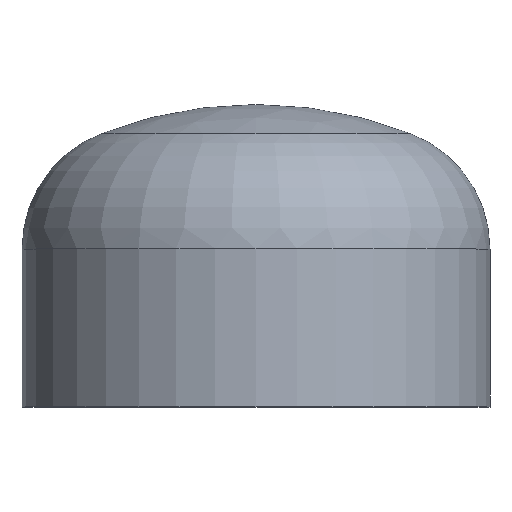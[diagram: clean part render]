
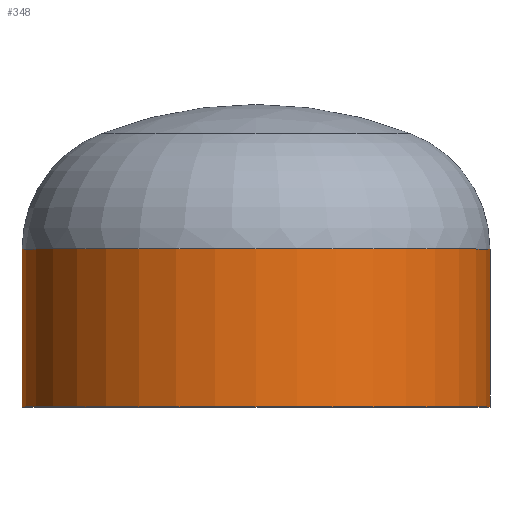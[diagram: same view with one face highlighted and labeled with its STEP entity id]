
A CAD part, top view. The second image highlights one B-rep face of the part: STEP entity #348.
In plain terms, the highlighted cylindrical face has radius 177.8 mm (diameter 355.6 mm), a partial arc.
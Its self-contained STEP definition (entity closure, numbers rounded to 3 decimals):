
#1 = AXIS2_PLACEMENT_3D ( 'NONE', #198, #151, #248 ) ;
#9 = ORIENTED_EDGE ( 'NONE', *, *, #100, .F. ) ;
#11 = ORIENTED_EDGE ( 'NONE', *, *, #95, .T. ) ;
#17 = AXIS2_PLACEMENT_3D ( 'NONE', #229, #153, #172 ) ;
#79 = ORIENTED_EDGE ( 'NONE', *, *, #326, .F. ) ;
#86 = VERTEX_POINT ( 'NONE', #255 ) ;
#91 = AXIS2_PLACEMENT_3D ( 'NONE', #238, #234, #343 ) ;
#95 = EDGE_CURVE ( 'NONE', #105, #120, #259, .T. ) ;
#100 = EDGE_CURVE ( 'NONE', #105, #86, #133, .T. ) ;
#105 = VERTEX_POINT ( 'NONE', #314 ) ;
#112 = VERTEX_POINT ( 'NONE', #209 ) ;
#120 = VERTEX_POINT ( 'NONE', #346 ) ;
#133 = LINE ( 'NONE', #334, #323 ) ;
#151 = DIRECTION ( 'NONE',  ( 0., -1., 0. ) ) ;
#153 = DIRECTION ( 'NONE',  ( 0., -1., 0. ) ) ;
#165 = LINE ( 'NONE', #179, #277 ) ;
#172 = DIRECTION ( 'NONE',  ( 1., 0., 0. ) ) ;
#179 = CARTESIAN_POINT ( 'NONE',  ( -177.8, 0., 0. ) ) ;
#198 = CARTESIAN_POINT ( 'NONE',  ( 0., 0., 0. ) ) ;
#209 = CARTESIAN_POINT ( 'NONE',  ( -177.8, 0., 0. ) ) ;
#229 = CARTESIAN_POINT ( 'NONE',  ( 0., 0., 0. ) ) ;
#234 = DIRECTION ( 'NONE',  ( 0., -1., 0. ) ) ;
#238 = CARTESIAN_POINT ( 'NONE',  ( 0., 120., 0. ) ) ;
#246 = DIRECTION ( 'NONE',  ( 0., -1., 0. ) ) ;
#248 = DIRECTION ( 'NONE',  ( 1., 0., 0. ) ) ;
#252 = CYLINDRICAL_SURFACE ( 'NONE', #1, 177.8 ) ;
#255 = CARTESIAN_POINT ( 'NONE',  ( 177.8, 0., 0. ) ) ;
#259 = CIRCLE ( 'NONE', #91, 177.8 ) ;
#263 = FACE_OUTER_BOUND ( 'NONE', #399, .T. ) ;
#269 = CIRCLE ( 'NONE', #17, 177.8 ) ;
#277 = VECTOR ( 'NONE', #246, 1000. ) ;
#311 = EDGE_CURVE ( 'NONE', #120, #112, #165, .T. ) ;
#314 = CARTESIAN_POINT ( 'NONE',  ( 177.8, 120., 0. ) ) ;
#323 = VECTOR ( 'NONE', #338, 1000. ) ;
#326 = EDGE_CURVE ( 'NONE', #86, #112, #269, .T. ) ;
#334 = CARTESIAN_POINT ( 'NONE',  ( 177.8, 0., 0. ) ) ;
#338 = DIRECTION ( 'NONE',  ( 0., -1., 0. ) ) ;
#341 = ORIENTED_EDGE ( 'NONE', *, *, #311, .T. ) ;
#343 = DIRECTION ( 'NONE',  ( 1., 0., 0. ) ) ;
#346 = CARTESIAN_POINT ( 'NONE',  ( -177.8, 120., 0. ) ) ;
#348 = ADVANCED_FACE ( 'NONE', ( #263 ), #252, .T. ) ;
#399 = EDGE_LOOP ( 'NONE', ( #11, #341, #79, #9 ) ) ;
